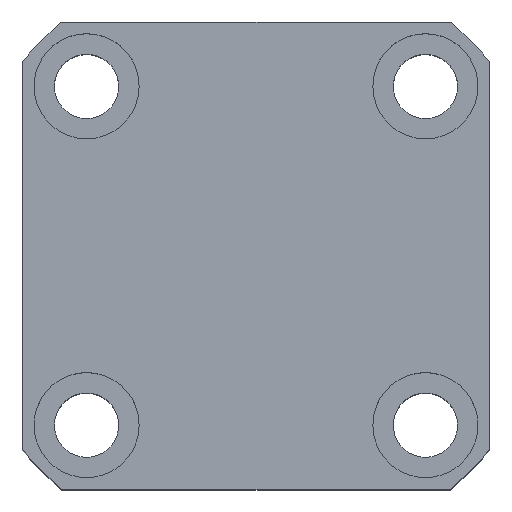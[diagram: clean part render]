
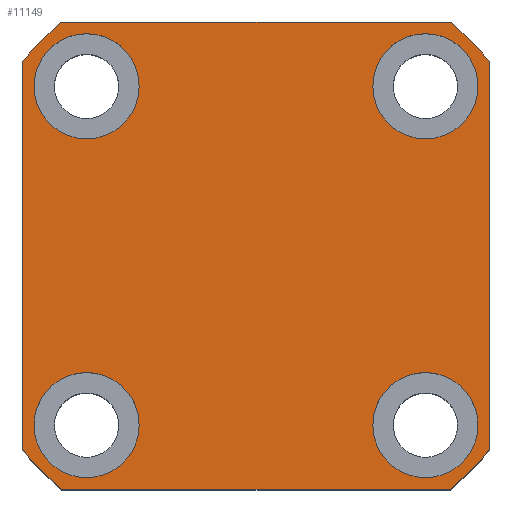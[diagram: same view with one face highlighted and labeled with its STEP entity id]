
A CAD part, top view. The second image highlights one B-rep face of the part: STEP entity #11149.
In plain terms, the highlighted planar face has unit normal (0, 0, 1).
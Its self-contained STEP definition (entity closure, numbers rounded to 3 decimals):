
#23 = CARTESIAN_POINT ( 'NONE',  ( -38., -29., 32.5 ) ) ;
#96 = EDGE_CURVE ( 'NONE', #3382, #10393, #12413, .T. ) ;
#165 = DIRECTION ( 'NONE',  ( 0., 0., 1. ) ) ;
#201 = AXIS2_PLACEMENT_3D ( 'NONE', #6369, #5313, #4274 ) ;
#364 = CIRCLE ( 'NONE', #3248, 9. ) ;
#407 = EDGE_CURVE ( 'NONE', #6022, #10988, #4409, .T. ) ;
#566 = CARTESIAN_POINT ( 'NONE',  ( 40., 33.226, 32.5 ) ) ;
#657 = DIRECTION ( 'NONE',  ( 0., 0., 1. ) ) ;
#842 = DIRECTION ( 'NONE',  ( 1., 0., 0. ) ) ;
#929 = CARTESIAN_POINT ( 'NONE',  ( -29., -29., 32.5 ) ) ;
#1019 = EDGE_CURVE ( 'NONE', #13754, #3382, #4559, .T. ) ;
#1039 = CIRCLE ( 'NONE', #3649, 52. ) ;
#1198 = EDGE_CURVE ( 'NONE', #4945, #13754, #5728, .T. ) ;
#1217 = FACE_BOUND ( 'NONE', #8634, .T. ) ;
#1271 = EDGE_LOOP ( 'NONE', ( #8617, #1529, #10753, #1430, #8982, #9170, #4877, #11885 ) ) ;
#1317 = CARTESIAN_POINT ( 'NONE',  ( 40., 33.226, 32.5 ) ) ;
#1343 = DIRECTION ( 'NONE',  ( 1., 0., 0. ) ) ;
#1375 = LINE ( 'NONE', #2106, #2237 ) ;
#1430 = ORIENTED_EDGE ( 'NONE', *, *, #1198, .T. ) ;
#1529 = ORIENTED_EDGE ( 'NONE', *, *, #8185, .T. ) ;
#1586 = CARTESIAN_POINT ( 'NONE',  ( 0., 0., 32.5 ) ) ;
#1702 = CARTESIAN_POINT ( 'NONE',  ( 38., 29., 32.5 ) ) ;
#1859 = CARTESIAN_POINT ( 'NONE',  ( 40., -33.226, 32.5 ) ) ;
#1883 = FACE_BOUND ( 'NONE', #7282, .T. ) ;
#2077 = AXIS2_PLACEMENT_3D ( 'NONE', #12699, #657, #9289 ) ;
#2106 = CARTESIAN_POINT ( 'NONE',  ( -33.226, 40., 32.5 ) ) ;
#2216 = LINE ( 'NONE', #12767, #6809 ) ;
#2237 = VECTOR ( 'NONE', #9756, 1000. ) ;
#2250 = EDGE_CURVE ( 'NONE', #11093, #14148, #6066, .T. ) ;
#2310 = DIRECTION ( 'NONE',  ( 0., 0., 1. ) ) ;
#2341 = DIRECTION ( 'NONE',  ( 1., 0., 0. ) ) ;
#2430 = CARTESIAN_POINT ( 'NONE',  ( 20., -29., 32.5 ) ) ;
#3248 = AXIS2_PLACEMENT_3D ( 'NONE', #3521, #165, #6767 ) ;
#3382 = VERTEX_POINT ( 'NONE', #1859 ) ;
#3521 = CARTESIAN_POINT ( 'NONE',  ( 29., -29., 32.5 ) ) ;
#3649 = AXIS2_PLACEMENT_3D ( 'NONE', #6713, #7921, #12379 ) ;
#3730 = CIRCLE ( 'NONE', #10363, 9. ) ;
#4005 = CARTESIAN_POINT ( 'NONE',  ( 33.226, 40., 32.5 ) ) ;
#4050 = VERTEX_POINT ( 'NONE', #8831 ) ;
#4097 = CARTESIAN_POINT ( 'NONE',  ( 33.226, -40., 32.5 ) ) ;
#4170 = ORIENTED_EDGE ( 'NONE', *, *, #2250, .F. ) ;
#4197 = DIRECTION ( 'NONE',  ( 0., 0., 1. ) ) ;
#4274 = DIRECTION ( 'NONE',  ( 1., 0., 0. ) ) ;
#4409 = CIRCLE ( 'NONE', #9706, 9. ) ;
#4480 = DIRECTION ( 'NONE',  ( 0., 0., 1. ) ) ;
#4524 = DIRECTION ( 'NONE',  ( 0., 0., 1. ) ) ;
#4529 = DIRECTION ( 'NONE',  ( 0., 0., 1. ) ) ;
#4549 = DIRECTION ( 'NONE',  ( 0., 1., 0. ) ) ;
#4559 = CIRCLE ( 'NONE', #5792, 52. ) ;
#4565 = VERTEX_POINT ( 'NONE', #9858 ) ;
#4568 = CARTESIAN_POINT ( 'NONE',  ( -29., -29., 32.5 ) ) ;
#4595 = VERTEX_POINT ( 'NONE', #9813 ) ;
#4617 = ORIENTED_EDGE ( 'NONE', *, *, #5179, .F. ) ;
#4620 = ORIENTED_EDGE ( 'NONE', *, *, #11044, .F. ) ;
#4717 = EDGE_CURVE ( 'NONE', #10393, #8828, #7895, .T. ) ;
#4781 = DIRECTION ( 'NONE',  ( 0., 0., 1. ) ) ;
#4877 = ORIENTED_EDGE ( 'NONE', *, *, #4717, .T. ) ;
#4945 = VERTEX_POINT ( 'NONE', #10371 ) ;
#5001 = VERTEX_POINT ( 'NONE', #5674 ) ;
#5158 = EDGE_CURVE ( 'NONE', #6231, #4565, #8412, .T. ) ;
#5179 = EDGE_CURVE ( 'NONE', #10988, #6022, #9775, .T. ) ;
#5285 = CIRCLE ( 'NONE', #201, 9. ) ;
#5313 = DIRECTION ( 'NONE',  ( 0., 0., 1. ) ) ;
#5484 = ORIENTED_EDGE ( 'NONE', *, *, #5158, .F. ) ;
#5561 = AXIS2_PLACEMENT_3D ( 'NONE', #4568, #12243, #5648 ) ;
#5648 = DIRECTION ( 'NONE',  ( 1., 0., 0. ) ) ;
#5674 = CARTESIAN_POINT ( 'NONE',  ( 38., -29., 32.5 ) ) ;
#5704 = EDGE_CURVE ( 'NONE', #5001, #13458, #364, .T. ) ;
#5728 = LINE ( 'NONE', #11057, #6936 ) ;
#5792 = AXIS2_PLACEMENT_3D ( 'NONE', #6013, #4781, #9338 ) ;
#6013 = CARTESIAN_POINT ( 'NONE',  ( 0., 0., 32.5 ) ) ;
#6022 = VERTEX_POINT ( 'NONE', #6994 ) ;
#6066 = CIRCLE ( 'NONE', #2077, 9. ) ;
#6105 = EDGE_CURVE ( 'NONE', #8828, #12905, #1375, .T. ) ;
#6231 = VERTEX_POINT ( 'NONE', #23 ) ;
#6305 = CIRCLE ( 'NONE', #5561, 9. ) ;
#6369 = CARTESIAN_POINT ( 'NONE',  ( 29., 29., 32.5 ) ) ;
#6465 = CARTESIAN_POINT ( 'NONE',  ( 20., 29., 32.5 ) ) ;
#6525 = AXIS2_PLACEMENT_3D ( 'NONE', #1586, #13550, #11426 ) ;
#6713 = CARTESIAN_POINT ( 'NONE',  ( 0., 0., 32.5 ) ) ;
#6767 = DIRECTION ( 'NONE',  ( 1., 0., 0. ) ) ;
#6809 = VECTOR ( 'NONE', #7210, 1000. ) ;
#6936 = VECTOR ( 'NONE', #2341, 1000. ) ;
#6994 = CARTESIAN_POINT ( 'NONE',  ( -20., 29., 32.5 ) ) ;
#7210 = DIRECTION ( 'NONE',  ( 0., -1., 0. ) ) ;
#7282 = EDGE_LOOP ( 'NONE', ( #11778, #5484 ) ) ;
#7895 = CIRCLE ( 'NONE', #6525, 52. ) ;
#7921 = DIRECTION ( 'NONE',  ( 0., 0., 1. ) ) ;
#8185 = EDGE_CURVE ( 'NONE', #4595, #4050, #2216, .T. ) ;
#8412 = CIRCLE ( 'NONE', #9006, 9. ) ;
#8446 = CARTESIAN_POINT ( 'NONE',  ( -38., 29., 32.5 ) ) ;
#8527 = EDGE_LOOP ( 'NONE', ( #12428, #12764 ) ) ;
#8617 = ORIENTED_EDGE ( 'NONE', *, *, #8950, .T. ) ;
#8634 = EDGE_LOOP ( 'NONE', ( #4620, #4170 ) ) ;
#8810 = CARTESIAN_POINT ( 'NONE',  ( 29., -29., 32.5 ) ) ;
#8828 = VERTEX_POINT ( 'NONE', #4005 ) ;
#8831 = CARTESIAN_POINT ( 'NONE',  ( -40., -33.226, 32.5 ) ) ;
#8913 = CARTESIAN_POINT ( 'NONE',  ( 0., 0., 32.5 ) ) ;
#8950 = EDGE_CURVE ( 'NONE', #12905, #4595, #12643, .T. ) ;
#8982 = ORIENTED_EDGE ( 'NONE', *, *, #1019, .T. ) ;
#9006 = AXIS2_PLACEMENT_3D ( 'NONE', #929, #4197, #842 ) ;
#9170 = ORIENTED_EDGE ( 'NONE', *, *, #96, .T. ) ;
#9289 = DIRECTION ( 'NONE',  ( 1., 0., 0. ) ) ;
#9338 = DIRECTION ( 'NONE',  ( 1., 0., 0. ) ) ;
#9489 = VECTOR ( 'NONE', #4549, 1000. ) ;
#9574 = CARTESIAN_POINT ( 'NONE',  ( -29., 29., 32.5 ) ) ;
#9706 = AXIS2_PLACEMENT_3D ( 'NONE', #9574, #10493, #11783 ) ;
#9756 = DIRECTION ( 'NONE',  ( -1., 0., 0. ) ) ;
#9775 = CIRCLE ( 'NONE', #12597, 9. ) ;
#9813 = CARTESIAN_POINT ( 'NONE',  ( -40., 33.226, 32.5 ) ) ;
#9835 = AXIS2_PLACEMENT_3D ( 'NONE', #9991, #4524, #1343 ) ;
#9858 = CARTESIAN_POINT ( 'NONE',  ( -20., -29., 32.5 ) ) ;
#9970 = DIRECTION ( 'NONE',  ( 1., 0., 0. ) ) ;
#9991 = CARTESIAN_POINT ( 'NONE',  ( 0., 0., 32.5 ) ) ;
#10363 = AXIS2_PLACEMENT_3D ( 'NONE', #8810, #4529, #12253 ) ;
#10371 = CARTESIAN_POINT ( 'NONE',  ( -33.226, -40., 32.5 ) ) ;
#10393 = VERTEX_POINT ( 'NONE', #1317 ) ;
#10493 = DIRECTION ( 'NONE',  ( 0., 0., 1. ) ) ;
#10753 = ORIENTED_EDGE ( 'NONE', *, *, #11902, .T. ) ;
#10988 = VERTEX_POINT ( 'NONE', #8446 ) ;
#11044 = EDGE_CURVE ( 'NONE', #14148, #11093, #5285, .T. ) ;
#11057 = CARTESIAN_POINT ( 'NONE',  ( -33.226, -40., 32.5 ) ) ;
#11093 = VERTEX_POINT ( 'NONE', #6465 ) ;
#11149 = ADVANCED_FACE ( 'NONE', ( #11289, #1883, #11639, #1217, #12489 ), #13100, .T. ) ;
#11289 = FACE_BOUND ( 'NONE', #8527, .T. ) ;
#11426 = DIRECTION ( 'NONE',  ( 1., 0., 0. ) ) ;
#11457 = AXIS2_PLACEMENT_3D ( 'NONE', #8913, #2310, #9970 ) ;
#11534 = ORIENTED_EDGE ( 'NONE', *, *, #407, .F. ) ;
#11639 = FACE_BOUND ( 'NONE', #13650, .T. ) ;
#11778 = ORIENTED_EDGE ( 'NONE', *, *, #12002, .F. ) ;
#11783 = DIRECTION ( 'NONE',  ( 1., 0., 0. ) ) ;
#11885 = ORIENTED_EDGE ( 'NONE', *, *, #6105, .T. ) ;
#11902 = EDGE_CURVE ( 'NONE', #4050, #4945, #1039, .T. ) ;
#12002 = EDGE_CURVE ( 'NONE', #4565, #6231, #6305, .T. ) ;
#12012 = DIRECTION ( 'NONE',  ( 1., 0., 0. ) ) ;
#12055 = CARTESIAN_POINT ( 'NONE',  ( -29., 29., 32.5 ) ) ;
#12243 = DIRECTION ( 'NONE',  ( 0., 0., 1. ) ) ;
#12253 = DIRECTION ( 'NONE',  ( 1., 0., 0. ) ) ;
#12379 = DIRECTION ( 'NONE',  ( 1., 0., 0. ) ) ;
#12413 = LINE ( 'NONE', #566, #9489 ) ;
#12428 = ORIENTED_EDGE ( 'NONE', *, *, #5704, .F. ) ;
#12489 = FACE_OUTER_BOUND ( 'NONE', #1271, .T. ) ;
#12504 = CARTESIAN_POINT ( 'NONE',  ( -33.226, 40., 32.5 ) ) ;
#12597 = AXIS2_PLACEMENT_3D ( 'NONE', #12055, #4480, #12012 ) ;
#12643 = CIRCLE ( 'NONE', #9835, 52. ) ;
#12699 = CARTESIAN_POINT ( 'NONE',  ( 29., 29., 32.5 ) ) ;
#12764 = ORIENTED_EDGE ( 'NONE', *, *, #13349, .F. ) ;
#12767 = CARTESIAN_POINT ( 'NONE',  ( -40., 33.226, 32.5 ) ) ;
#12905 = VERTEX_POINT ( 'NONE', #12504 ) ;
#13100 = PLANE ( 'NONE',  #11457 ) ;
#13349 = EDGE_CURVE ( 'NONE', #13458, #5001, #3730, .T. ) ;
#13458 = VERTEX_POINT ( 'NONE', #2430 ) ;
#13550 = DIRECTION ( 'NONE',  ( 0., 0., 1. ) ) ;
#13650 = EDGE_LOOP ( 'NONE', ( #11534, #4617 ) ) ;
#13754 = VERTEX_POINT ( 'NONE', #4097 ) ;
#14148 = VERTEX_POINT ( 'NONE', #1702 ) ;
